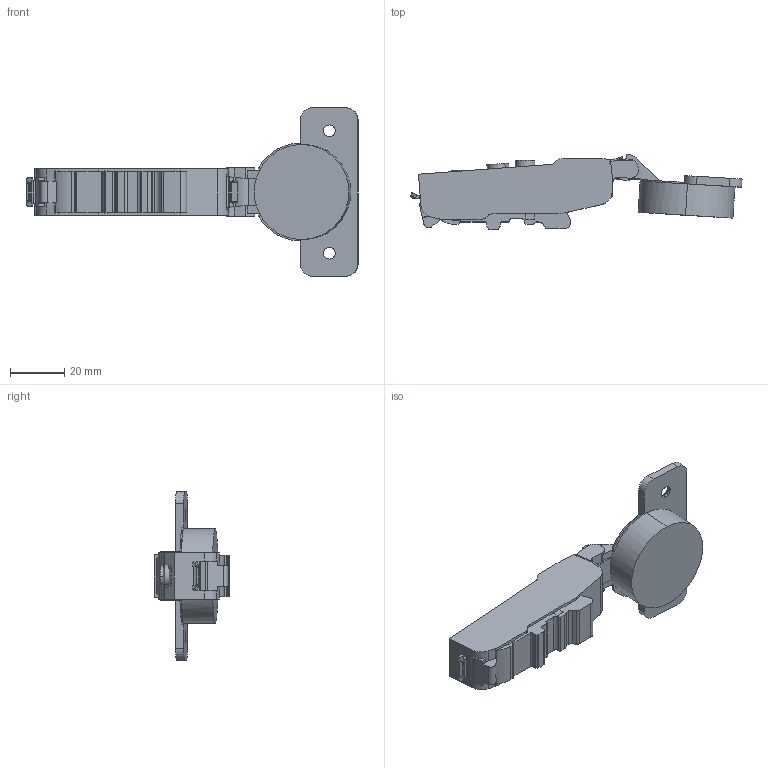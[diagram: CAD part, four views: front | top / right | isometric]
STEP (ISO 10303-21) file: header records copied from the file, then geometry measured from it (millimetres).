
FILE_DESCRIPTION (( 'STEP AP203' ), '1' );
FILE_NAME ('C81B815FAB DTC 3D OPEN.STEP', '2024-07-25T07:26:15', ( '微软用户' ), ( '微软中国' ), 'SwSTEP 2.0', 'SolidWorks 2021', '' );
FILE_SCHEMA (( 'CONFIG_CONTROL_DESIGN' ));
Length unit declared in the file: millimetre
Products named in the file (1): C81B815FAB DTC 3D OPEN
Bounding box: 122.01 x 27.65 x 62 mm (x, y, z)
Volume: 40344.7 mm3; surface area: 12163 mm2
Topology: 1 solids, 2 shells, 330 faces, 937 edges, 613 vertices
Faces by surface type: plane 147, cylinder 130, bspline 25, torus 24, cone 4
Entity records: 11730 total; most frequent: CARTESIAN_POINT 3170, ORIENTED_EDGE 1870, DIRECTION 1717, EDGE_CURVE 935, VERTEX_POINT 613, AXIS2_PLACEMENT_3D 601, LINE 515, VECTOR 515
